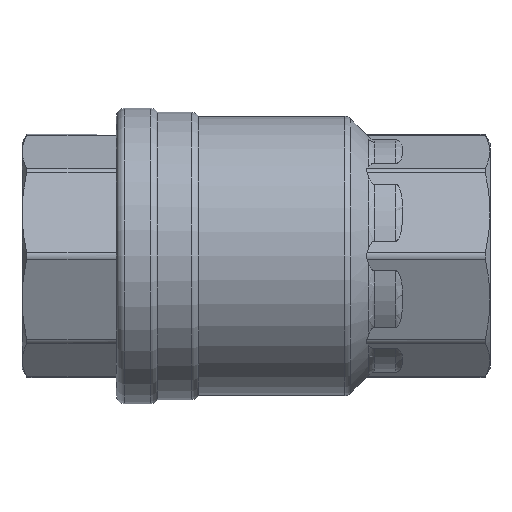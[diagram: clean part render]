
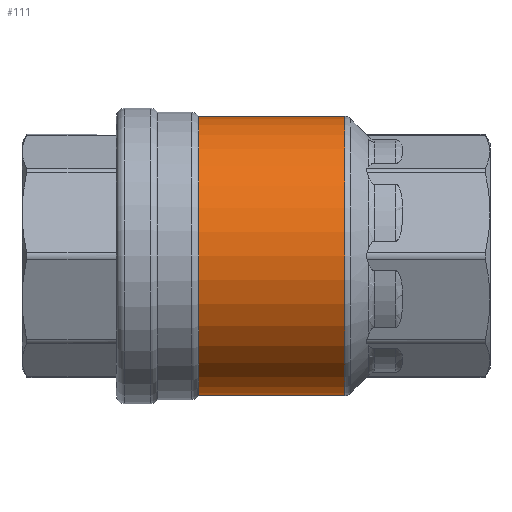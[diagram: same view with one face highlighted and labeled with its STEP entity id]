
A CAD part, front view. The second image highlights one B-rep face of the part: STEP entity #111.
In plain terms, the highlighted cylindrical face has radius 34 mm (diameter 68 mm), a partial arc.
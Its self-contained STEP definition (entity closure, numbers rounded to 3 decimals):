
#111 = ADVANCED_FACE ( 'NONE', ( #4824 ), #4821, .T. ) ;
#508 = DIRECTION ( 'NONE',  ( 1., 0., 0. ) ) ;
#511 = DIRECTION ( 'NONE',  ( 0., 0., -1. ) ) ;
#516 = CARTESIAN_POINT ( 'NONE',  ( -14., 0., 0. ) ) ;
#1238 = CARTESIAN_POINT ( 'NONE',  ( -14., 0., -34. ) ) ;
#1239 = DIRECTION ( 'NONE',  ( 1., 0., 0. ) ) ;
#1259 = CARTESIAN_POINT ( 'NONE',  ( -14., 0., 34. ) ) ;
#1260 = DIRECTION ( 'NONE',  ( 1., 0., 0. ) ) ;
#1274 = CARTESIAN_POINT ( 'NONE',  ( -14., 0., 0. ) ) ;
#1276 = DIRECTION ( 'NONE',  ( 1., 0., 0. ) ) ;
#1277 = DIRECTION ( 'NONE',  ( 0., 0., 1. ) ) ;
#1644 = EDGE_CURVE ( 'NONE', #3471, #3489, #4952, .T. ) ;
#1646 = EDGE_CURVE ( 'NONE', #3495, #3468, #4958, .T. ) ;
#1651 = EDGE_CURVE ( 'NONE', #3495, #3471, #4964, .T. ) ;
#1826 = AXIS2_PLACEMENT_3D ( 'NONE', #516, #508, #511 ) ;
#2123 = CARTESIAN_POINT ( 'NONE',  ( 21.672, 0., 0. ) ) ;
#2130 = DIRECTION ( 'NONE',  ( -1., 0., 0. ) ) ;
#2131 = DIRECTION ( 'NONE',  ( 0., 0., -1. ) ) ;
#2736 = CARTESIAN_POINT ( 'NONE',  ( 21.672, 0., 34. ) ) ;
#2739 = CARTESIAN_POINT ( 'NONE',  ( -14., 0., -34. ) ) ;
#2756 = CARTESIAN_POINT ( 'NONE',  ( 21.672, 0., -34. ) ) ;
#2762 = CARTESIAN_POINT ( 'NONE',  ( -14., 0., 34. ) ) ;
#3102 = AXIS2_PLACEMENT_3D ( 'NONE', #1274, #1276, #1277 ) ;
#3150 = AXIS2_PLACEMENT_3D ( 'NONE', #2123, #2130, #2131 ) ;
#3320 = EDGE_CURVE ( 'NONE', #3489, #3468, #5094, .T. ) ;
#3468 = VERTEX_POINT ( 'NONE', #2736 ) ;
#3471 = VERTEX_POINT ( 'NONE', #2739 ) ;
#3489 = VERTEX_POINT ( 'NONE', #2756 ) ;
#3495 = VERTEX_POINT ( 'NONE', #2762 ) ;
#4062 = EDGE_LOOP ( 'NONE', ( #4201, #4200, #4199, #4198 ) ) ;
#4198 = ORIENTED_EDGE ( 'NONE', *, *, #3320, .T. ) ;
#4199 = ORIENTED_EDGE ( 'NONE', *, *, #1644, .T. ) ;
#4200 = ORIENTED_EDGE ( 'NONE', *, *, #1651, .T. ) ;
#4201 = ORIENTED_EDGE ( 'NONE', *, *, #1646, .F. ) ;
#4821 = CYLINDRICAL_SURFACE ( 'NONE', #1826, 34. ) ;
#4824 = FACE_OUTER_BOUND ( 'NONE', #4062, .T. ) ;
#4951 = VECTOR ( 'NONE', #1239, 1000. ) ;
#4952 = LINE ( 'NONE', #1238, #4951 ) ;
#4953 = VECTOR ( 'NONE', #1260, 1000. ) ;
#4958 = LINE ( 'NONE', #1259, #4953 ) ;
#4964 = CIRCLE ( 'NONE', #3102, 34. ) ;
#5094 = CIRCLE ( 'NONE', #3150, 34. ) ;
